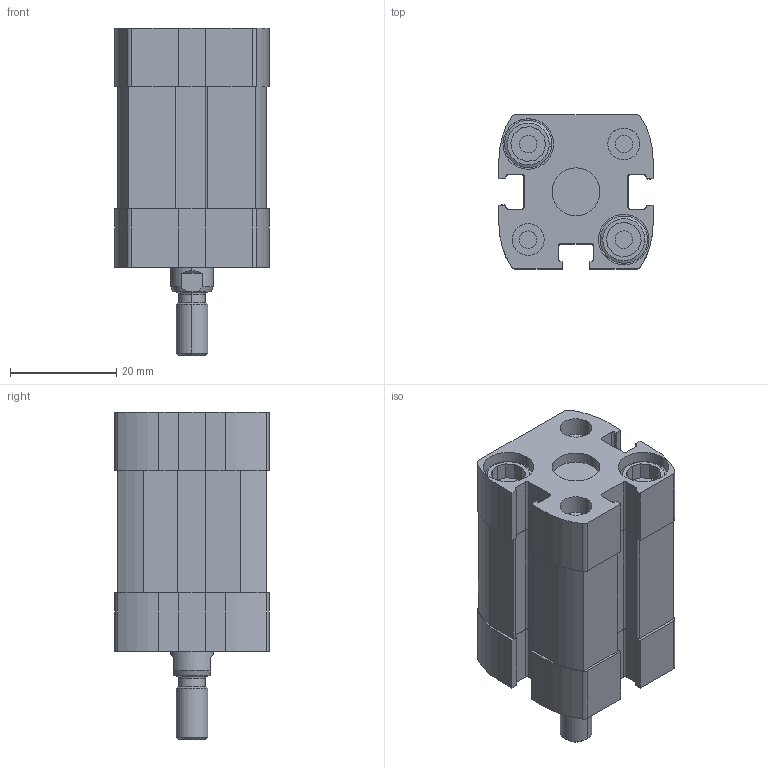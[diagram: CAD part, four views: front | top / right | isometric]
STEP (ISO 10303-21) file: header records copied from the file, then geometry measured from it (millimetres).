
FILE_DESCRIPTION (( 'STEP AP214' ), '1' );
FILE_NAME ('10.064.016.02.0010.ML.STEP', '2026-03-17T11:33:00', ( '' ), ( '' ), 'SwSTEP 2.0', 'SolidWorks 2023', '' );
FILE_SCHEMA (( 'AUTOMOTIVE_DESIGN' ));
Length unit declared in the file: millimetre
Products named in the file (3): 10.064.016.02.0010.ML; Group1^10.064.016.02.0010_ML (3D); Group2^10.064.016.02.0010_ML (3D)
Assembly tree (2 placements, depth 2):
  10.064.016.02.0010.ML
    Group1^10.064.016.02.0010_ML (3D)
    Group2^10.064.016.02.0010_ML (3D)
Bounding box: 29 x 29 x 61.65 mm (x, y, z)
Volume: 33502.4 mm3; surface area: 19036.4 mm2
Topology: 8 solids, 8 shells, 552 faces, 1404 edges, 920 vertices
Faces by surface type: plane 326, cylinder 166, cone 30, torus 18, bspline 12
Entity records: 23226 total; most frequent: CARTESIAN_POINT 3341, DIRECTION 2858, ORIENTED_EDGE 2808, EDGE_CURVE 1404, LINE 976, VECTOR 976, AXIS2_PLACEMENT_3D 941, VERTEX_POINT 920
